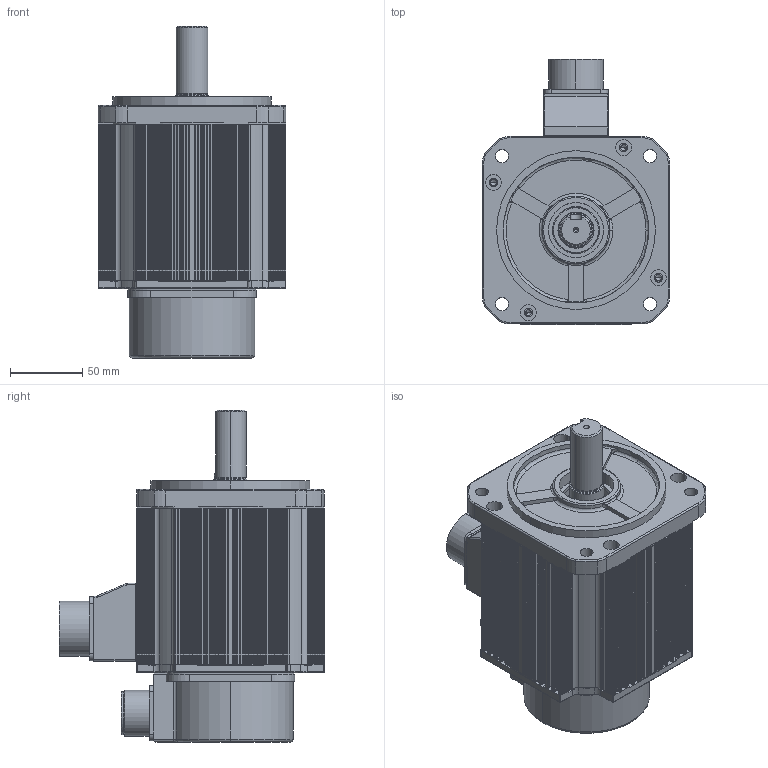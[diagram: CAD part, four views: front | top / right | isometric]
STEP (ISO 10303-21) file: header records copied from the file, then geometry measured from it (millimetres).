
FILE_DESCRIPTION (( 'STEP AP203' ), '1' );
FILE_NAME ('KAND-10D¡à1B2.STEP', '2026-02-02T02:20:01', ( '' ), ( '' ), 'SwSTEP 2.0', 'SolidWorks 2023', '' );
FILE_SCHEMA (( 'CONFIG_CONTROL_DESIGN' ));
Length unit declared in the file: millimetre
Products named in the file (11): 10050532 GASKET_미돌출형; Ø22-KEY8X41; □130-108mm; MS3102A 20-29P; 10050907 RUBBER SEAL_MS22 or MS24; KAND-10D□1B2; □130 FLANGE; 10050908 CONNECTOR BOX_MS22 or MS24; MS3102A 24-11P_표준; □130 BRACKET_BR; 1005053102 ENCODER COVER
Assembly tree (10 placements, depth 2):
  KAND-10D□1B2
    □130-108mm
    □130 FLANGE
    □130 BRACKET_BR
    Ø22-KEY8X41
    10050532 GASKET_미돌출형
    1005053102 ENCODER COVER
    MS3102A 20-29P
    MS3102A 24-11P_표준
    10050908 CONNECTOR BOX_MS22 or MS24
    10050907 RUBBER SEAL_MS22 or MS24
Bounding box: 130 x 183.62 x 230 mm (x, y, z)
Volume: 634095.9 mm3; surface area: 324029.2 mm2
Topology: 10 solids, 10 shells, 2252 faces, 6248 edges, 4027 vertices
Faces by surface type: plane 1044, cylinder 884, torus 181, bspline 83, cone 50, sphere 10
Entity records: 76578 total; most frequent: CARTESIAN_POINT 16943, DIRECTION 12413, ORIENTED_EDGE 12372, EDGE_CURVE 6186, AXIS2_PLACEMENT_3D 4366, VERTEX_POINT 4027, LINE 3681, VECTOR 3681
